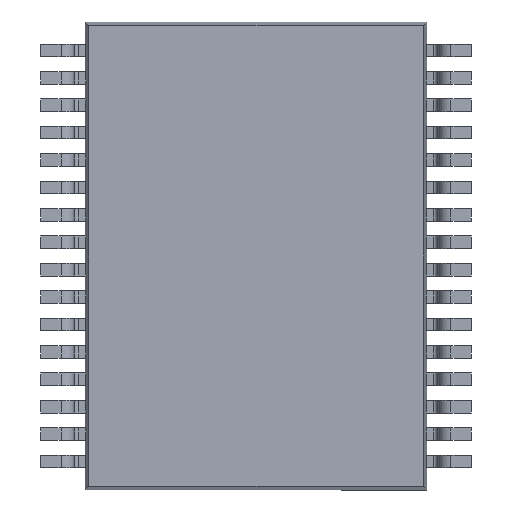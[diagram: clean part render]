
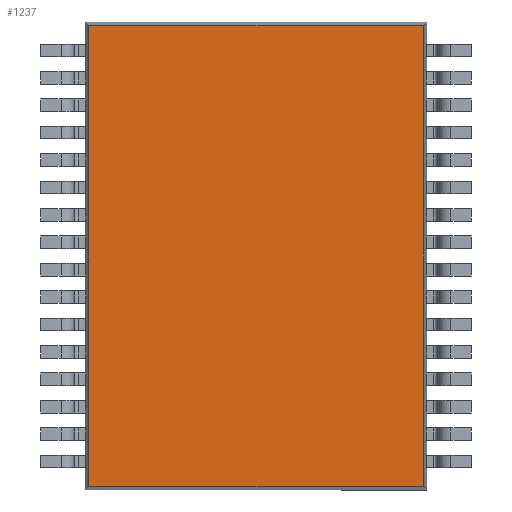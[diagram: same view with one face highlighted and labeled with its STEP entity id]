
A CAD part, front view. The second image highlights one B-rep face of the part: STEP entity #1237.
In plain terms, the highlighted planar face has unit normal (0, -1, 0).
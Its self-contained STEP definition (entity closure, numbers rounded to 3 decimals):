
#1237 = ADVANCED_FACE ( 'NONE', ( #14152 ), #10268, .F. ) ;
#4623 = EDGE_CURVE ( 'NONE', #19717, #19720, #18021, .T. ) ;
#4639 = EDGE_CURVE ( 'NONE', #19725, #19724, #18053, .T. ) ;
#4749 = EDGE_CURVE ( 'NONE', #19720, #19725, #18248, .T. ) ;
#4751 = EDGE_CURVE ( 'NONE', #19724, #19717, #18250, .T. ) ;
#8584 = CARTESIAN_POINT ( 'NONE',  ( -3.966, 0.1, 5.55 ) ) ;
#8586 = DIRECTION ( 'NONE',  ( 0., 0., -1. ) ) ;
#8616 = CARTESIAN_POINT ( 'NONE',  ( 3.966, 0.1, 5.55 ) ) ;
#8617 = DIRECTION ( 'NONE',  ( 0., 0., 1. ) ) ;
#10259 = CARTESIAN_POINT ( 'NONE',  ( 0., 0.1, 0. ) ) ;
#10268 = PLANE ( 'NONE',  #13374 ) ;
#10270 = DIRECTION ( 'NONE',  ( 0., 1., 0. ) ) ;
#10271 = DIRECTION ( 'NONE',  ( 0., 0., 1. ) ) ;
#11942 = EDGE_LOOP ( 'NONE', ( #12626, #12623, #12627, #12630 ) ) ;
#12623 = ORIENTED_EDGE ( 'NONE', *, *, #4749, .T. ) ;
#12626 = ORIENTED_EDGE ( 'NONE', *, *, #4623, .T. ) ;
#12627 = ORIENTED_EDGE ( 'NONE', *, *, #4639, .T. ) ;
#12630 = ORIENTED_EDGE ( 'NONE', *, *, #4751, .T. ) ;
#13374 = AXIS2_PLACEMENT_3D ( 'NONE', #10259, #10270, #10271 ) ;
#14152 = FACE_OUTER_BOUND ( 'NONE', #11942, .T. ) ;
#16071 = CARTESIAN_POINT ( 'NONE',  ( -3.966, 0.1, 5.466 ) ) ;
#16074 = CARTESIAN_POINT ( 'NONE',  ( -3.966, 0.1, -5.466 ) ) ;
#16078 = CARTESIAN_POINT ( 'NONE',  ( 3.966, 0.1, 5.466 ) ) ;
#16079 = CARTESIAN_POINT ( 'NONE',  ( 3.966, 0.1, -5.466 ) ) ;
#18021 = LINE ( 'NONE', #8584, #18024 ) ;
#18024 = VECTOR ( 'NONE', #8586, 1000. ) ;
#18053 = LINE ( 'NONE', #8616, #18056 ) ;
#18056 = VECTOR ( 'NONE', #8617, 1000. ) ;
#18248 = LINE ( 'NONE', #20589, #18251 ) ;
#18250 = LINE ( 'NONE', #20591, #18253 ) ;
#18251 = VECTOR ( 'NONE', #20590, 1000. ) ;
#18253 = VECTOR ( 'NONE', #20592, 1000. ) ;
#19717 = VERTEX_POINT ( 'NONE', #16071 ) ;
#19720 = VERTEX_POINT ( 'NONE', #16074 ) ;
#19724 = VERTEX_POINT ( 'NONE', #16078 ) ;
#19725 = VERTEX_POINT ( 'NONE', #16079 ) ;
#20589 = CARTESIAN_POINT ( 'NONE',  ( 4.05, 0.1, -5.466 ) ) ;
#20590 = DIRECTION ( 'NONE',  ( 1., 0., 0. ) ) ;
#20591 = CARTESIAN_POINT ( 'NONE',  ( 4.05, 0.1, 5.466 ) ) ;
#20592 = DIRECTION ( 'NONE',  ( -1., 0., 0. ) ) ;
